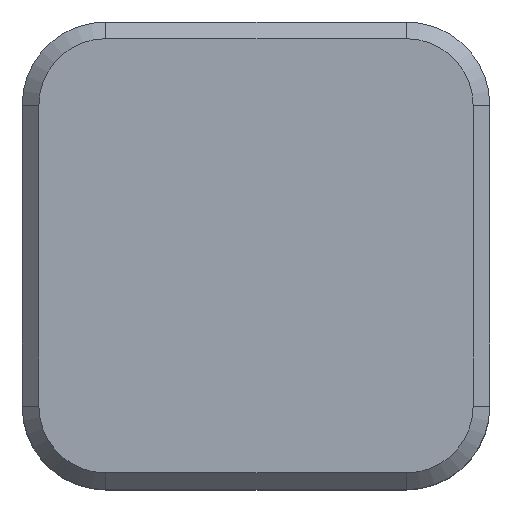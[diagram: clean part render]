
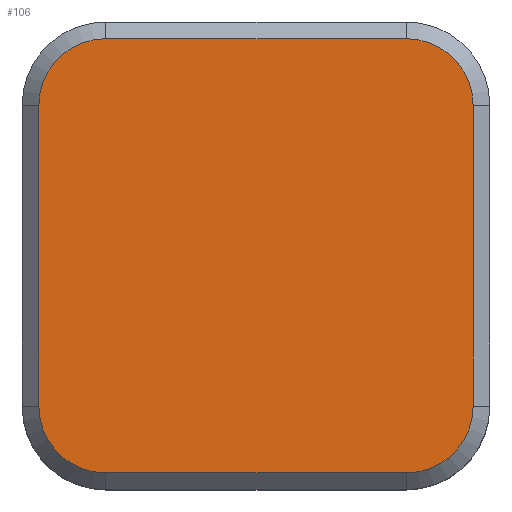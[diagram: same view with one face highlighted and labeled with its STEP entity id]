
A CAD part, top view. The second image highlights one B-rep face of the part: STEP entity #106.
In plain terms, the highlighted planar face has unit normal (0, 0, 1).
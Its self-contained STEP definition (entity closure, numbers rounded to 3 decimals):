
#74=CIRCLE('',#685,12.);
#77=CIRCLE('',#689,12.);
#78=CIRCLE('',#691,12.);
#79=CIRCLE('',#692,12.);
#106=ADVANCED_FACE('',(#161),#136,.T.);
#136=PLANE('',#693);
#161=FACE_OUTER_BOUND('',#197,.T.);
#197=EDGE_LOOP('',(#298,#299,#300,#301,#302,#303,#304,#305));
#298=ORIENTED_EDGE('',*,*,#506,.T.);
#299=ORIENTED_EDGE('',*,*,#507,.T.);
#300=ORIENTED_EDGE('',*,*,#508,.T.);
#301=ORIENTED_EDGE('',*,*,#499,.T.);
#302=ORIENTED_EDGE('',*,*,#509,.T.);
#303=ORIENTED_EDGE('',*,*,#505,.T.);
#304=ORIENTED_EDGE('',*,*,#510,.T.);
#305=ORIENTED_EDGE('',*,*,#511,.T.);
#434=VERTEX_POINT('',#1017);
#435=VERTEX_POINT('',#1019);
#436=VERTEX_POINT('',#1024);
#437=VERTEX_POINT('',#1027);
#438=VERTEX_POINT('',#1031);
#439=VERTEX_POINT('',#1032);
#440=VERTEX_POINT('',#1034);
#441=VERTEX_POINT('',#1038);
#499=EDGE_CURVE('',#435,#434,#74,.T.);
#505=EDGE_CURVE('',#436,#437,#77,.T.);
#506=EDGE_CURVE('',#438,#439,#578,.T.);
#507=EDGE_CURVE('',#439,#440,#78,.T.);
#508=EDGE_CURVE('',#440,#435,#579,.T.);
#509=EDGE_CURVE('',#434,#436,#580,.T.);
#510=EDGE_CURVE('',#437,#441,#581,.T.);
#511=EDGE_CURVE('',#441,#438,#79,.T.);
#578=LINE('',#1030,#638);
#579=LINE('',#1035,#639);
#580=LINE('',#1036,#640);
#581=LINE('',#1037,#641);
#638=VECTOR('',#829,1.);
#639=VECTOR('',#832,1.);
#640=VECTOR('',#833,1.);
#641=VECTOR('',#834,1.);
#685=AXIS2_PLACEMENT_3D('',#1018,#814,#815);
#689=AXIS2_PLACEMENT_3D('',#1028,#825,#826);
#691=AXIS2_PLACEMENT_3D('',#1033,#830,#831);
#692=AXIS2_PLACEMENT_3D('',#1039,#835,#836);
#693=AXIS2_PLACEMENT_3D('',#1040,#837,#838);
#814=DIRECTION('',(0.,0.,1.));
#815=DIRECTION('',(0.,-1.,0.));
#825=DIRECTION('',(0.,0.,1.));
#826=DIRECTION('',(0.,-1.,0.));
#829=DIRECTION('',(-1.,0.,0.));
#830=DIRECTION('',(0.,0.,1.));
#831=DIRECTION('',(0.,-1.,0.));
#832=DIRECTION('',(0.,-1.,0.));
#833=DIRECTION('',(1.,0.,0.));
#834=DIRECTION('',(0.,1.,0.));
#835=DIRECTION('',(0.,0.,1.));
#836=DIRECTION('',(0.,-1.,0.));
#837=DIRECTION('',(0.,0.,1.));
#838=DIRECTION('',(0.,-1.,0.));
#1017=CARTESIAN_POINT('',(-27.,-39.,0.));
#1018=CARTESIAN_POINT('',(-27.,-27.,0.));
#1019=CARTESIAN_POINT('',(-39.,-27.,0.));
#1024=CARTESIAN_POINT('',(27.,-39.,0.));
#1027=CARTESIAN_POINT('',(39.,-27.,0.));
#1028=CARTESIAN_POINT('',(27.,-27.,0.));
#1030=CARTESIAN_POINT('',(-27.,39.,0.));
#1031=CARTESIAN_POINT('',(27.,39.,0.));
#1032=CARTESIAN_POINT('',(-27.,39.,0.));
#1033=CARTESIAN_POINT('',(-27.,27.,0.));
#1034=CARTESIAN_POINT('',(-39.,27.,0.));
#1035=CARTESIAN_POINT('',(-39.,27.,0.));
#1036=CARTESIAN_POINT('',(-27.,-39.,0.));
#1037=CARTESIAN_POINT('',(39.,27.,0.));
#1038=CARTESIAN_POINT('',(39.,27.,0.));
#1039=CARTESIAN_POINT('',(27.,27.,0.));
#1040=CARTESIAN_POINT('',(-27.,27.,0.));
